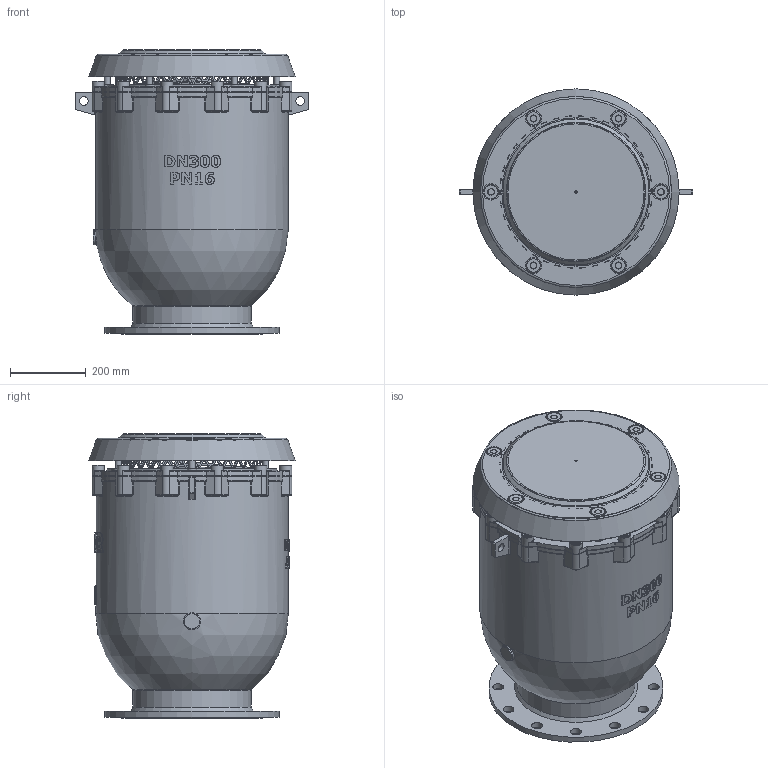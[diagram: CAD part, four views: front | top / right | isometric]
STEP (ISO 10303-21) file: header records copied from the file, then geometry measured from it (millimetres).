
FILE_DESCRIPTION(('STEP AP242'), '1');
FILE_NAME('Âîçäóøíûé êëàïàí DUOJET KX', '', ('UNSPECIFIED'), ('UNSPECIFIED'), 'C3D Converter', 'C3D Toolkit', '');
FILE_SCHEMA(('AP242_MANAGED_MODEL_BASED_3D_ENGINEERING_MIM_LF { 1 0 10303 442 1 1 4 }'));
Length unit declared in the file: millimetre
Assembly tree (45 placements, depth 2):
  (unnamed)
    (unnamed)
    (unnamed)
    (unnamed)
    (unnamed)
    (unnamed)
    (unnamed)
    (unnamed)  x6
    (unnamed)  x6
    (unnamed)
    (unnamed)
    (unnamed)
    (unnamed)  x5
    (unnamed)  x7
    (unnamed)  x6
    (unnamed)  x6
Bounding box: 616 x 544 x 750 mm (x, y, z)
Volume: 15864908.3 mm3; surface area: 6944301 mm2
Topology: 59 solids, 60 shells, 2262 faces, 5872 edges, 3787 vertices
Faces by surface type: plane 788, bspline 551, cylinder 548, extrusion 173, torus 107, cone 82, sphere 13
Full cylindrical faces by diameter (mm): 6 x3, 9 x2, 10 x18, 10.5 x6, 11 x12, 12 x6, 16 x54, 22.883 x2, 24 x12, 25.6 x12, 28 x12, 30 x6, 32 x12, 40 x1, 61.675 x1, 75 x2, 81 x1, 300 x2, 312 x1, 400 x2, 402 x1, 421 x2, 427 x1, 444 x1, 448 x2, 460 x3, 482 x2, 484 x2, 496 x1, 508 x1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
Entity records: 161421 total; most frequent: CARTESIAN_POINT 113861, ORIENTED_EDGE 9826, DIRECTION 6828, EDGE_CURVE 4913, VERTEX_POINT 3297, AXIS2_PLACEMENT_3D 2591, EDGE_LOOP 2423, B_SPLINE_CURVE_WITH_KNOTS 2230
